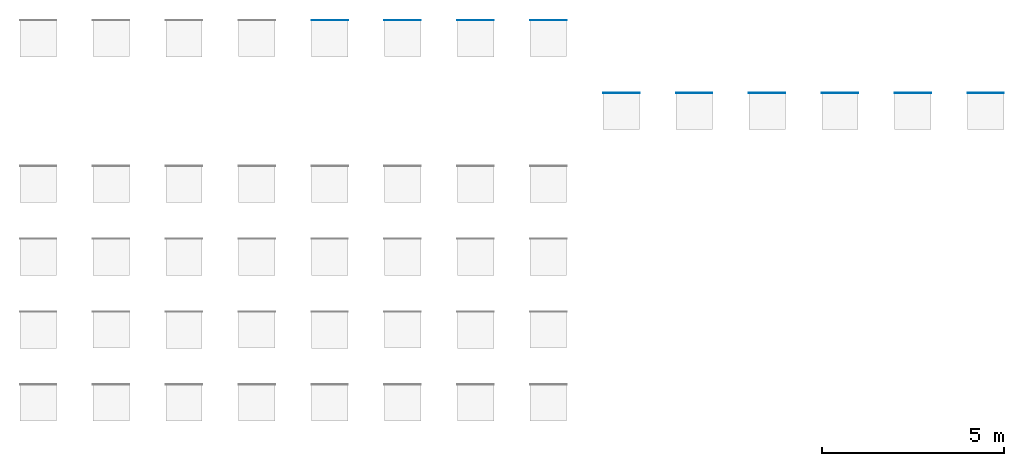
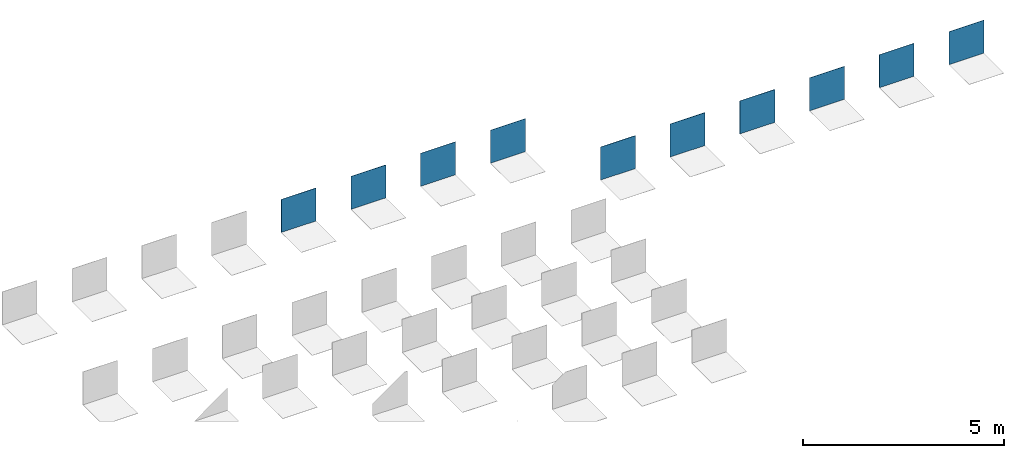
# One storey, part 2 of 4: 10 walls.
"""IFC2X3 building model written with IfcOpenShell, lengths in millimetres."""

from ifc_helpers import new_model, entity, si_unit, converted_unit, derived_unit, direction, frame, frame_2d, origin, place, context, subcontext, project, spatial, rectangle, extrude, material, layer, layer_set, layer_usage, type_object, element, save


model = new_model("IFC2X3")

# Units and contexts
model_context = context("Model", 3, precision=0.01, world=origin(), true_north=direction((6.12303176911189e-17, 1.0)))
body_context = subcontext(model_context, "Body", "Model", "MODEL_VIEW")
ifc_project = project(units=[si_unit("LENGTHUNIT", "METRE", prefix="MILLI"), si_unit("AREAUNIT", "SQUARE_METRE"), si_unit("VOLUMEUNIT", "CUBIC_METRE"), converted_unit("PLANEANGLEUNIT", "DEGREE", entity("IfcRatioMeasure", 0.0174532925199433), si_unit("PLANEANGLEUNIT", "RADIAN"), dimensions=[0, 0, 0, 0, 0, 0, 0]), si_unit("MASSUNIT", "GRAM", prefix="KILO"), derived_unit("MASSDENSITYUNIT", [(si_unit("MASSUNIT", "GRAM", prefix="KILO"), 1), (si_unit("LENGTHUNIT", "METRE"), -3)]), derived_unit("MOMENTOFINERTIAUNIT", [(si_unit("LENGTHUNIT", "METRE"), 4)]), si_unit("TIMEUNIT", "SECOND"), si_unit("FREQUENCYUNIT", "HERTZ"), si_unit("THERMODYNAMICTEMPERATUREUNIT", "DEGREE_CELSIUS"), derived_unit("THERMALTRANSMITTANCEUNIT", [(si_unit("MASSUNIT", "GRAM", prefix="KILO"), 1), (si_unit("THERMODYNAMICTEMPERATUREUNIT", "KELVIN"), -1), (si_unit("TIMEUNIT", "SECOND"), -3)]), derived_unit("VOLUMETRICFLOWRATEUNIT", [(si_unit("LENGTHUNIT", "METRE"), 3), (si_unit("TIMEUNIT", "SECOND"), -1)]), si_unit("ELECTRICCURRENTUNIT", "AMPERE"), si_unit("ELECTRICVOLTAGEUNIT", "VOLT"), si_unit("POWERUNIT", "WATT"), si_unit("FORCEUNIT", "NEWTON", prefix="KILO"), si_unit("ILLUMINANCEUNIT", "LUX"), si_unit("LUMINOUSFLUXUNIT", "LUMEN"), si_unit("LUMINOUSINTENSITYUNIT", "CANDELA"), derived_unit("USERDEFINED", [(si_unit("MASSUNIT", "GRAM", prefix="KILO"), -1), (si_unit("LENGTHUNIT", "METRE"), -2), (si_unit("TIMEUNIT", "SECOND"), 3), (si_unit("LUMINOUSFLUXUNIT", "LUMEN"), 1)]), derived_unit("LINEARVELOCITYUNIT", [(si_unit("LENGTHUNIT", "METRE"), 1), (si_unit("TIMEUNIT", "SECOND"), -1)]), si_unit("PRESSUREUNIT", "PASCAL"), derived_unit("USERDEFINED", [(si_unit("LENGTHUNIT", "METRE"), -2), (si_unit("MASSUNIT", "GRAM", prefix="KILO"), 1), (si_unit("TIMEUNIT", "SECOND"), -2)]), derived_unit("LINEARFORCEUNIT", [(si_unit("MASSUNIT", "GRAM", prefix="KILO"), 1), (si_unit("LENGTHUNIT", "METRE"), 1), (si_unit("TIMEUNIT", "SECOND"), -2), (si_unit("LENGTHUNIT", "METRE"), -1)]), derived_unit("PLANARFORCEUNIT", [(si_unit("MASSUNIT", "GRAM", prefix="KILO"), 1), (si_unit("LENGTHUNIT", "METRE"), 1), (si_unit("TIMEUNIT", "SECOND"), -2), (si_unit("LENGTHUNIT", "METRE"), -2)])], contexts=[model_context])

# Site, building, storey
site_placement = place(None, origin())
site = spatial("IfcSite", under=ifc_project, at=site_placement, Name="Default", CompositionType="ELEMENT")
building_placement = place(site_placement, origin())
building = spatial("IfcBuilding", under=site, at=building_placement, CompositionType="ELEMENT")
storey_placement = place(building_placement, origin())
storey = spatial("IfcBuildingStorey", under=building, at=storey_placement, Name="Level 1", CompositionType="ELEMENT", Elevation=0.0)

# Walls
ifc_material_1 = material(Name="REVIGRÉS-LOCUS-BASE-10X10-SILK-GRIS")
ifc_layer_1 = layer(ifc_material_1, 8.5)
ifc_layer_set_1 = layer_set([ifc_layer_1], Name="Basic Wall:REVIGRÉS-LOCUS-BASE-9.7x9.7-SILK-GRIS")
ifc_layer_usage_1 = layer_usage(ifc_layer_set_1, "AXIS2", "NEGATIVE", 4.25)
wall_type_1 = type_object("IfcWallType", Name="Basic Wall:REVIGRÉS-LOCUS-BASE-9.7x9.7-SILK-GRIS", PredefinedType="STANDARD", material=ifc_layer_set_1)
wall_1_placement = place(storey_placement, frame((9948.64271399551, 3108.07579736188, 0.0)))
element("IfcWallStandardCase", 1, at=wall_1_placement, inside=storey, type_object=wall_type_1, material=ifc_layer_usage_1, Name="Basic Wall:REVIGRÉS-LOCUS-BASE-9.7x9.7-SILK-GRIS", ObjectType="Basic Wall:REVIGRÉS-LOCUS-BASE-9.7x9.7-SILK-GRIS", context=body_context, shape_type="SweptSolid", body=[
    extrude(rectangle(XDim=999.999999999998, YDim=8.50000000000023, at=frame_2d((499.999999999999, 0.0), x_axis=(-1.0, 0.0))), origin(), (0.0, 0.0, 1.0), 1000.0),
])
ifc_material_2 = material(Name="REVIGRÉS-LOCUS-BASE-10X10-SILK-SMOG")
ifc_layer_2 = layer(ifc_material_2, 8.5)
ifc_layer_set_2 = layer_set([ifc_layer_2], Name="Basic Wall:REVIGRÉS-LOCUS-BASE-9.7x9.7-SILK-SMOG")
ifc_layer_usage_2 = layer_usage(ifc_layer_set_2, "AXIS2", "NEGATIVE", 4.25)
wall_type_2 = type_object("IfcWallType", Name="Basic Wall:REVIGRÉS-LOCUS-BASE-9.7x9.7-SILK-SMOG", PredefinedType="STANDARD", material=ifc_layer_set_2)
wall_2_placement = place(storey_placement, frame((13948.6427139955, 3108.07579736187, 0.0)))
element("IfcWallStandardCase", 2, at=wall_2_placement, inside=storey, type_object=wall_type_2, material=ifc_layer_usage_2, Name="Basic Wall:REVIGRÉS-LOCUS-BASE-9.7x9.7-SILK-SMOG", ObjectType="Basic Wall:REVIGRÉS-LOCUS-BASE-9.7x9.7-SILK-SMOG", context=body_context, shape_type="SweptSolid", body=[
    extrude(rectangle(XDim=999.999999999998, YDim=8.50000000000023, at=frame_2d((499.999999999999, 0.0), x_axis=(-1.0, 0.0))), origin(), (0.0, 0.0, 1.0), 1000.0),
])
ifc_material_3 = material(Name="REVIGRÉS-LOCUS-BASE-10X10-SOFT GRIP-GRIS")
ifc_layer_3 = layer(ifc_material_3, 8.5)
ifc_layer_set_3 = layer_set([ifc_layer_3], Name="Basic Wall:REVIGRÉS-LOCUS-BASE-9.7x9.7-SOFT GRIP-GRIS")
ifc_layer_usage_3 = layer_usage(ifc_layer_set_3, "AXIS2", "NEGATIVE", 4.25)
wall_type_3 = type_object("IfcWallType", Name="Basic Wall:REVIGRÉS-LOCUS-BASE-9.7x9.7-SOFT GRIP-GRIS", PredefinedType="STANDARD", material=ifc_layer_set_3)
wall_3_placement = place(storey_placement, frame((11948.6427139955, 3108.07579736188, 0.0)))
element("IfcWallStandardCase", 3, at=wall_3_placement, inside=storey, type_object=wall_type_3, material=ifc_layer_usage_3, Name="Basic Wall:REVIGRÉS-LOCUS-BASE-9.7x9.7-SOFT GRIP-GRIS", ObjectType="Basic Wall:REVIGRÉS-LOCUS-BASE-9.7x9.7-SOFT GRIP-GRIS", context=body_context, shape_type="SweptSolid", body=[
    extrude(rectangle(XDim=999.999999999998, YDim=8.50000000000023, at=frame_2d((499.999999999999, 0.0), x_axis=(-1.0, 0.0))), origin(), (0.0, 0.0, 1.0), 1000.0),
])
ifc_material_4 = material(Name="REVIGRÉS-LOCUS-BASE-10X10-SOFT GRIP-SMOG")
ifc_layer_4 = layer(ifc_material_4, 8.5)
ifc_layer_set_4 = layer_set([ifc_layer_4], Name="Basic Wall:REVIGRÉS-LOCUS-BASE-9.7x9.7-SOFT GRIP-SMOG")
ifc_layer_usage_4 = layer_usage(ifc_layer_set_4, "AXIS2", "NEGATIVE", 4.25)
wall_type_4 = type_object("IfcWallType", Name="Basic Wall:REVIGRÉS-LOCUS-BASE-9.7x9.7-SOFT GRIP-SMOG", PredefinedType="STANDARD", material=ifc_layer_set_4)
wall_4_placement = place(storey_placement, frame((15948.6427139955, 3108.07579736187, 0.0)))
element("IfcWallStandardCase", 4, at=wall_4_placement, inside=storey, type_object=wall_type_4, material=ifc_layer_usage_4, Name="Basic Wall:REVIGRÉS-LOCUS-BASE-9.7x9.7-SOFT GRIP-SMOG", ObjectType="Basic Wall:REVIGRÉS-LOCUS-BASE-9.7x9.7-SOFT GRIP-SMOG", context=body_context, shape_type="SweptSolid", body=[
    extrude(rectangle(XDim=999.999999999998, YDim=8.50000000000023, at=frame_2d((499.999999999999, 0.0), x_axis=(-1.0, 0.0))), origin(), (0.0, 0.0, 1.0), 1000.0),
])
ifc_material_5 = material(Name="REVIGRÉS-LOCUS-BASE-30X30-SILK-QUILT BONE")
ifc_layer_5 = layer(ifc_material_5, 8.5)
ifc_layer_set_5 = layer_set([ifc_layer_5], Name="Basic Wall:REVIGRÉS-LOCUS-BASE-29.5x29.5-SILK-QUILT BONE")
ifc_layer_usage_5 = layer_usage(ifc_layer_set_5, "AXIS2", "NEGATIVE", 4.25)
wall_type_5 = type_object("IfcWallType", Name="Basic Wall:REVIGRÉS-LOCUS-BASE-29.5x29.5-SILK-QUILT BONE", PredefinedType="STANDARD", material=ifc_layer_set_5)
wall_5_placement = place(storey_placement, frame((17948.6427139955, 1108.07579736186, 0.0)))
element("IfcWallStandardCase", 5, at=wall_5_placement, inside=storey, type_object=wall_type_5, material=ifc_layer_usage_5, Name="Basic Wall:REVIGRÉS-LOCUS-BASE-29.5x29.5-SILK-QUILT BONE", ObjectType="Basic Wall:REVIGRÉS-LOCUS-BASE-29.5x29.5-SILK-QUILT BONE", context=body_context, shape_type="SweptSolid", body=[
    extrude(rectangle(XDim=999.999999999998, YDim=8.49999999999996, at=frame_2d((499.999999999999, 0.0), x_axis=(-1.0, 0.0))), origin(), (0.0, 0.0, 1.0), 1000.0),
])
ifc_material_6 = material(Name="REVIGRÉS-LOCUS-BASE-30X30-SILK-QUILT GREEN")
ifc_layer_6 = layer(ifc_material_6, 8.5)
ifc_layer_set_6 = layer_set([ifc_layer_6], Name="Basic Wall:REVIGRÉS-LOCUS-BASE-29.5x29.5-SILK-QUILT GREEN")
ifc_layer_usage_6 = layer_usage(ifc_layer_set_6, "AXIS2", "NEGATIVE", 4.25)
wall_type_6 = type_object("IfcWallType", Name="Basic Wall:REVIGRÉS-LOCUS-BASE-29.5x29.5-SILK-QUILT GREEN", PredefinedType="STANDARD", material=ifc_layer_set_6)
wall_6_placement = place(storey_placement, frame((21948.6427139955, 1108.07579736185, 0.0)))
element("IfcWallStandardCase", 6, at=wall_6_placement, inside=storey, type_object=wall_type_6, material=ifc_layer_usage_6, Name="Basic Wall:REVIGRÉS-LOCUS-BASE-29.5x29.5-SILK-QUILT GREEN", ObjectType="Basic Wall:REVIGRÉS-LOCUS-BASE-29.5x29.5-SILK-QUILT GREEN", context=body_context, shape_type="SweptSolid", body=[
    extrude(rectangle(XDim=999.999999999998, YDim=8.49999999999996, at=frame_2d((499.999999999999, 0.0), x_axis=(-1.0, 0.0))), origin(), (0.0, 0.0, 1.0), 1000.0),
])
ifc_material_7 = material(Name="REVIGRÉS-LOCUS-BASE-30X30-SILK-QUILT GRIS")
ifc_layer_7 = layer(ifc_material_7, 8.5)
ifc_layer_set_7 = layer_set([ifc_layer_7], Name="Basic Wall:REVIGRÉS-LOCUS-BASE-29.5x29.5-SILK-QUILT GRIS")
ifc_layer_usage_7 = layer_usage(ifc_layer_set_7, "AXIS2", "NEGATIVE", 4.25)
wall_type_7 = type_object("IfcWallType", Name="Basic Wall:REVIGRÉS-LOCUS-BASE-29.5x29.5-SILK-QUILT GRIS", PredefinedType="STANDARD", material=ifc_layer_set_7)
wall_7_placement = place(storey_placement, frame((25948.6427139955, 1108.07579736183, 0.0)))
element("IfcWallStandardCase", 7, at=wall_7_placement, inside=storey, type_object=wall_type_7, material=ifc_layer_usage_7, Name="Basic Wall:REVIGRÉS-LOCUS-BASE-29.5x29.5-SILK-QUILT GRIS", ObjectType="Basic Wall:REVIGRÉS-LOCUS-BASE-29.5x29.5-SILK-QUILT GRIS", context=body_context, shape_type="SweptSolid", body=[
    extrude(rectangle(XDim=999.999999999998, YDim=8.49999999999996, at=frame_2d((499.999999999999, 0.0), x_axis=(-1.0, 0.0))), origin(), (0.0, 0.0, 1.0), 1000.0),
])
ifc_material_8 = material(Name="REVIGRÉS-LOCUS-BASE-30X30-SOFT GRIP-QUILT BONE")
ifc_layer_8 = layer(ifc_material_8, 8.5)
ifc_layer_set_8 = layer_set([ifc_layer_8], Name="Basic Wall:REVIGRÉS-LOCUS-BASE-29.5x29.5-SOFT GRIP-QUILT BONE")
ifc_layer_usage_8 = layer_usage(ifc_layer_set_8, "AXIS2", "NEGATIVE", 4.25)
wall_type_8 = type_object("IfcWallType", Name="Basic Wall:REVIGRÉS-LOCUS-BASE-29.5x29.5-SOFT GRIP-QUILT BONE", PredefinedType="STANDARD", material=ifc_layer_set_8)
wall_8_placement = place(storey_placement, frame((19948.6427139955, 1108.07579736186, 0.0)))
element("IfcWallStandardCase", 8, at=wall_8_placement, inside=storey, type_object=wall_type_8, material=ifc_layer_usage_8, Name="Basic Wall:REVIGRÉS-LOCUS-BASE-29.5x29.5-SOFT GRIP-QUILT BONE", ObjectType="Basic Wall:REVIGRÉS-LOCUS-BASE-29.5x29.5-SOFT GRIP-QUILT BONE", context=body_context, shape_type="SweptSolid", body=[
    extrude(rectangle(XDim=999.999999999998, YDim=8.49999999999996, at=frame_2d((499.999999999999, 0.0), x_axis=(-1.0, 0.0))), origin(), (0.0, 0.0, 1.0), 1000.0),
])
ifc_material_9 = material(Name="REVIGRÉS-LOCUS-BASE-30X30-SOFT GRIP-QUILT GREEN")
ifc_layer_9 = layer(ifc_material_9, 8.5)
ifc_layer_set_9 = layer_set([ifc_layer_9], Name="Basic Wall:REVIGRÉS-LOCUS-BASE-29.5x29.5-SOFT GRIP-QUILT GREEN")
ifc_layer_usage_9 = layer_usage(ifc_layer_set_9, "AXIS2", "NEGATIVE", 4.25)
wall_type_9 = type_object("IfcWallType", Name="Basic Wall:REVIGRÉS-LOCUS-BASE-29.5x29.5-SOFT GRIP-QUILT GREEN", PredefinedType="STANDARD", material=ifc_layer_set_9)
wall_9_placement = place(storey_placement, frame((23948.6427139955, 1108.07579736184, 0.0)))
element("IfcWallStandardCase", 9, at=wall_9_placement, inside=storey, type_object=wall_type_9, material=ifc_layer_usage_9, Name="Basic Wall:REVIGRÉS-LOCUS-BASE-29.5x29.5-SOFT GRIP-QUILT GREEN", ObjectType="Basic Wall:REVIGRÉS-LOCUS-BASE-29.5x29.5-SOFT GRIP-QUILT GREEN", context=body_context, shape_type="SweptSolid", body=[
    extrude(rectangle(XDim=999.999999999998, YDim=8.49999999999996, at=frame_2d((499.999999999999, 0.0), x_axis=(-1.0, 0.0))), origin(), (0.0, 0.0, 1.0), 1000.0),
])
ifc_material_10 = material(Name="REVIGRÉS-LOCUS-BASE-30X30-SOFT GRIP-QUILT GRIS")
ifc_layer_10 = layer(ifc_material_10, 8.5)
ifc_layer_set_10 = layer_set([ifc_layer_10], Name="Basic Wall:REVIGRÉS-LOCUS-BASE-29.5x29.5-SOFT GRIP-QUILT GRIS")
ifc_layer_usage_10 = layer_usage(ifc_layer_set_10, "AXIS2", "NEGATIVE", 4.25)
wall_type_10 = type_object("IfcWallType", Name="Basic Wall:REVIGRÉS-LOCUS-BASE-29.5x29.5-SOFT GRIP-QUILT GRIS", PredefinedType="STANDARD", material=ifc_layer_set_10)
wall_10_placement = place(storey_placement, frame((27948.6427139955, 1108.07579736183, 0.0)))
element("IfcWallStandardCase", 10, at=wall_10_placement, inside=storey, type_object=wall_type_10, material=ifc_layer_usage_10, Name="Basic Wall:REVIGRÉS-LOCUS-BASE-29.5x29.5-SOFT GRIP-QUILT GRIS", ObjectType="Basic Wall:REVIGRÉS-LOCUS-BASE-29.5x29.5-SOFT GRIP-QUILT GRIS", context=body_context, shape_type="SweptSolid", body=[
    extrude(rectangle(XDim=999.999999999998, YDim=8.49999999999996, at=frame_2d((499.999999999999, 0.0), x_axis=(-1.0, 0.0))), origin(), (0.0, 0.0, 1.0), 1000.0),
])

save(model, "model.ifc")
